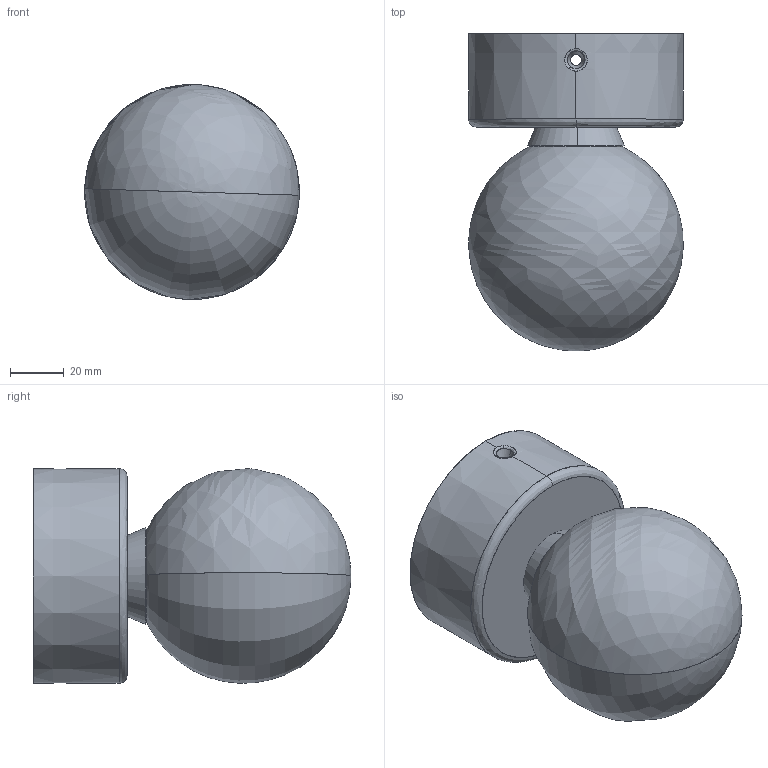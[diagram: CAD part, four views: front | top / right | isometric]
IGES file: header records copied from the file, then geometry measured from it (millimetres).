
Start section: SolidWorks IGES file using analytic representation for surfaces
Global section: file name: Z:\Modele 3D_WWW\_KOLEKCJE_WWW\BRAZOS\BRAZOS-6948-8057\BRAZOS-6948-8057.IGS; native system: SolidWorks 2021; preprocessor: SolidWorks 2021; author: gabriela.tworek; date: 210716.122807; units: millimetre
Bounding box: 80 x 118.35 x 80 mm (x, y, z)
Surface area: 69849.7 mm2 (no closed solid volume)
Topology: 0 solids, 0 shells, 187 faces, 2781 edges, 2776 vertices
Faces by surface type: revolution 106, bspline 81
